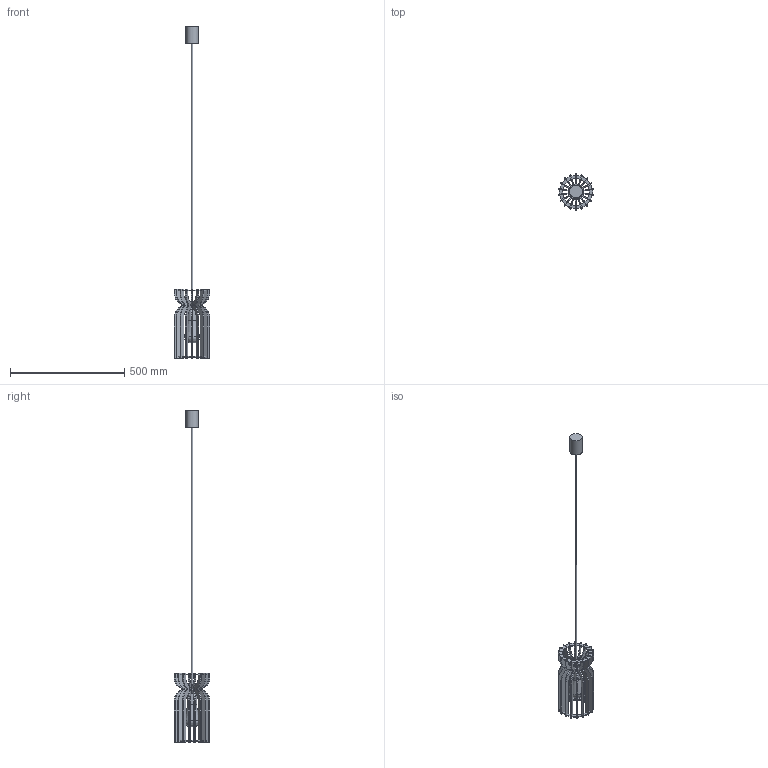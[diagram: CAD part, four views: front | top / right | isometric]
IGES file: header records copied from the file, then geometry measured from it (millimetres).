
Start section: SolidWorks IGES file using analytic representation for surfaces
Global section: file name: X:\PRODUKT\Modele 3D_WWW\_KOLEKCJE WWW\KYMI\KYMI-B-10571-10574\KYMI-B-10571-10574.IGS; native system: SolidWorks 2021; preprocessor: SolidWorks 2021; author: gabriela.tworek; date: 221128.094224; units: millimetre
Bounding box: 155.45 x 157.02 x 1450.13 mm (x, y, z)
Surface area: 426191.6 mm2 (no closed solid volume)
Topology: 0 solids, 0 shells, 439 faces, 2046 edges, 1980 vertices
Faces by surface type: bspline 241, revolution 198
